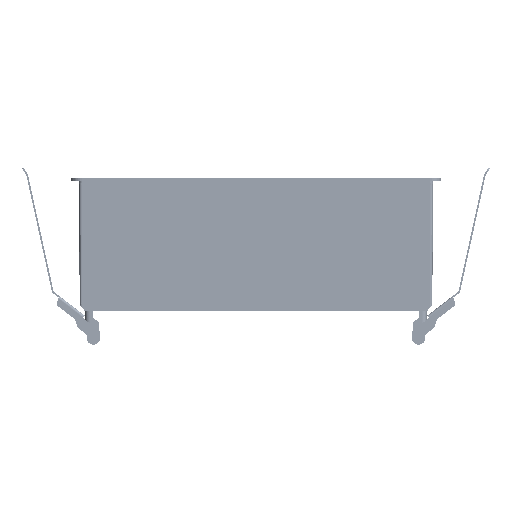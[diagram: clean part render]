
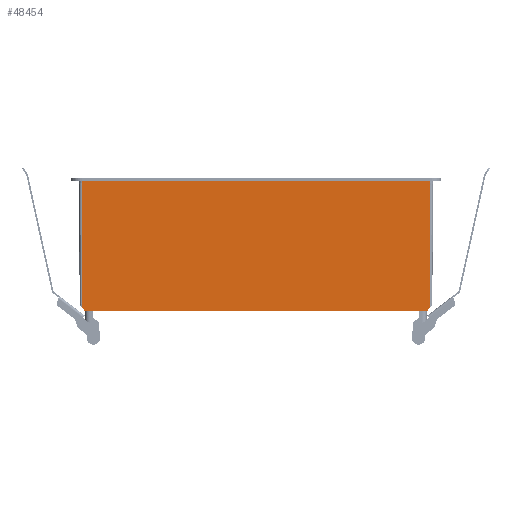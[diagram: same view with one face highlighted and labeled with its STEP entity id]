
A CAD part, front view. The second image highlights one B-rep face of the part: STEP entity #48454.
In plain terms, the highlighted planar face has unit normal (0, -1, -0.006).
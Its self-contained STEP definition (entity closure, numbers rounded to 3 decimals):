
#10946=FACE_OUTER_BOUND('',#13977,.T.);
#13977=EDGE_LOOP('',(#44395,#44396,#44397,#44398,#44399,#44400));
#15862=LINE('',#158056,#17870);
#15878=LINE('',#158100,#17886);
#15883=LINE('',#158122,#17891);
#15916=LINE('',#158239,#17924);
#15942=LINE('',#158311,#17950);
#15943=LINE('',#158313,#17951);
#17870=VECTOR('',#65548,10.);
#17886=VECTOR('',#65586,10.);
#17891=VECTOR('',#65609,10.);
#17924=VECTOR('',#65736,10.);
#17950=VECTOR('',#65818,10.);
#17951=VECTOR('',#65821,10.);
#22407=VERTEX_POINT('',#158053);
#22408=VERTEX_POINT('',#158055);
#22424=VERTEX_POINT('',#158097);
#22425=VERTEX_POINT('',#158099);
#22433=VERTEX_POINT('',#158121);
#22470=VERTEX_POINT('',#158238);
#29691=EDGE_CURVE('',#22408,#22407,#15862,.T.);
#29713=EDGE_CURVE('',#22425,#22424,#15878,.T.);
#29724=EDGE_CURVE('',#22425,#22433,#15883,.T.);
#29782=EDGE_CURVE('',#22470,#22433,#15916,.T.);
#29819=EDGE_CURVE('',#22470,#22407,#15942,.T.);
#29820=EDGE_CURVE('',#22424,#22408,#15943,.F.);
#44395=ORIENTED_EDGE('',*,*,#29691,.T.);
#44396=ORIENTED_EDGE('',*,*,#29819,.F.);
#44397=ORIENTED_EDGE('',*,*,#29782,.T.);
#44398=ORIENTED_EDGE('',*,*,#29724,.F.);
#44399=ORIENTED_EDGE('',*,*,#29713,.T.);
#44400=ORIENTED_EDGE('',*,*,#29820,.T.);
#45582=PLANE('',#53868);
#48454=ADVANCED_FACE('',(#10946),#45582,.T.);
#53868=AXIS2_PLACEMENT_3D('',#158312,#65819,#65820);
#65548=DIRECTION('',(0.643,-0.005,0.766));
#65586=DIRECTION('',(0.643,0.005,-0.766));
#65609=DIRECTION('',(0.,-0.006,1.));
#65736=DIRECTION('',(-1.,0.,0.));
#65818=DIRECTION('',(0.,0.006,-1.));
#65819=DIRECTION('center_axis',(0.,-1.,-0.006));
#65820=DIRECTION('ref_axis',(1.,0.,0.));
#65821=DIRECTION('',(-1.,0.,0.));
#158053=CARTESIAN_POINT('',(103.747,-18.984,1.756));
#158055=CARTESIAN_POINT('',(102.273,-18.974,0.));
#158056=CARTESIAN_POINT('',(60.783,-18.672,-49.447));
#158097=CARTESIAN_POINT('',(-102.273,-18.974,0.));
#158099=CARTESIAN_POINT('',(-103.747,-18.984,1.756));
#158100=CARTESIAN_POINT('',(-104.474,-18.99,2.622));
#158121=CARTESIAN_POINT('',(-103.747,-19.447,77.5));
#158122=CARTESIAN_POINT('',(-103.747,-18.974,0.001));
#158238=CARTESIAN_POINT('',(103.747,-19.447,77.5));
#158239=CARTESIAN_POINT('',(-52.874,-19.447,77.5));
#158311=CARTESIAN_POINT('',(103.747,-18.974,0.001));
#158312=CARTESIAN_POINT('Origin',(-105.747,-18.974,0.001));
#158313=CARTESIAN_POINT('',(-52.874,-18.974,0.));
